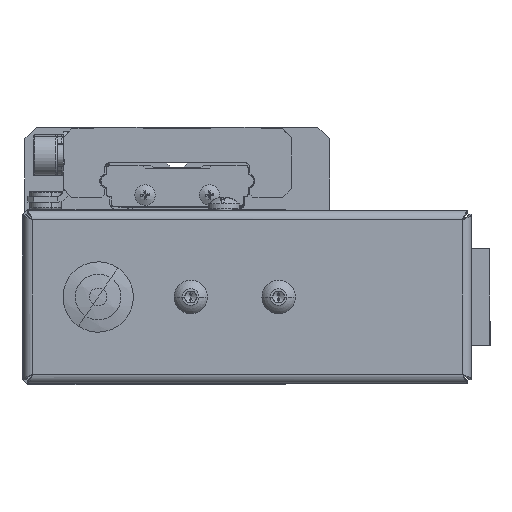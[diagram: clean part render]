
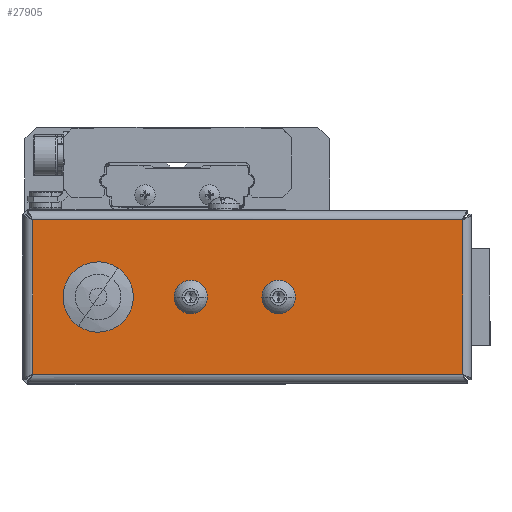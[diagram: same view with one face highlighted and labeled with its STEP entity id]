
A CAD part, left-side view. The second image highlights one B-rep face of the part: STEP entity #27905.
In plain terms, the highlighted planar face has unit normal (-1, 0, 0) as drawn and (0, 0, -1) by its records, which use the part's own axes.
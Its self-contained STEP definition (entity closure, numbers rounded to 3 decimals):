
#329 = DIRECTION ( 'NONE',  ( 0., 0., -1. ) ) ;
#1735 = VERTEX_POINT ( 'NONE', #7009 ) ;
#1901 = DIRECTION ( 'NONE',  ( 0., -1., 0. ) ) ;
#3403 = LINE ( 'NONE', #13901, #31914 ) ;
#4590 = EDGE_LOOP ( 'NONE', ( #5658, #5872, #19141, #14938 ) ) ;
#5658 = ORIENTED_EDGE ( 'NONE', *, *, #25271, .T. ) ;
#5872 = ORIENTED_EDGE ( 'NONE', *, *, #30681, .T. ) ;
#6455 = CARTESIAN_POINT ( 'NONE',  ( 1.5, 27.9, -0.5 ) ) ;
#6616 = AXIS2_PLACEMENT_3D ( 'NONE', #18006, #329, #27998 ) ;
#6760 = LINE ( 'NONE', #35399, #20767 ) ;
#7009 = CARTESIAN_POINT ( 'NONE',  ( 74.9, 1.5, -0.5 ) ) ;
#8383 = LINE ( 'NONE', #31244, #17281 ) ;
#10191 = CARTESIAN_POINT ( 'NONE',  ( 1.5, 1.5, -0.5 ) ) ;
#13195 = VERTEX_POINT ( 'NONE', #19086 ) ;
#13901 = CARTESIAN_POINT ( 'NONE',  ( 0.571, 27.9, -0.5 ) ) ;
#14938 = ORIENTED_EDGE ( 'NONE', *, *, #36254, .T. ) ;
#15986 = DIRECTION ( 'NONE',  ( -1., 0., 0. ) ) ;
#17125 = VERTEX_POINT ( 'NONE', #10191 ) ;
#17281 = VECTOR ( 'NONE', #15986, 1000. ) ;
#17560 = DIRECTION ( 'NONE',  ( 0., 1., 0. ) ) ;
#18006 = CARTESIAN_POINT ( 'NONE',  ( 0., 0., -0.5 ) ) ;
#19086 = CARTESIAN_POINT ( 'NONE',  ( 74.9, 27.9, -0.5 ) ) ;
#19141 = ORIENTED_EDGE ( 'NONE', *, *, #35261, .T. ) ;
#20579 = DIRECTION ( 'NONE',  ( 1., 0., 0. ) ) ;
#20767 = VECTOR ( 'NONE', #17560, 1000. ) ;
#21475 = VERTEX_POINT ( 'NONE', #6455 ) ;
#22593 = CARTESIAN_POINT ( 'NONE',  ( 74.9, 28.829, -0.5 ) ) ;
#23063 = VECTOR ( 'NONE', #1901, 1000. ) ;
#25271 = EDGE_CURVE ( 'NONE', #13195, #1735, #38027, .T. ) ;
#27501 = PLANE ( 'NONE',  #6616 ) ;
#27905 = ADVANCED_FACE ( 'NONE', ( #31305 ), #27501, .T. ) ;
#27998 = DIRECTION ( 'NONE',  ( -1., 0., 0. ) ) ;
#30681 = EDGE_CURVE ( 'NONE', #1735, #17125, #8383, .T. ) ;
#31244 = CARTESIAN_POINT ( 'NONE',  ( 75.829, 1.5, -0.5 ) ) ;
#31305 = FACE_OUTER_BOUND ( 'NONE', #4590, .T. ) ;
#31914 = VECTOR ( 'NONE', #20579, 1000. ) ;
#35261 = EDGE_CURVE ( 'NONE', #17125, #21475, #6760, .T. ) ;
#35399 = CARTESIAN_POINT ( 'NONE',  ( 1.5, 0.571, -0.5 ) ) ;
#36254 = EDGE_CURVE ( 'NONE', #21475, #13195, #3403, .T. ) ;
#38027 = LINE ( 'NONE', #22593, #23063 ) ;
